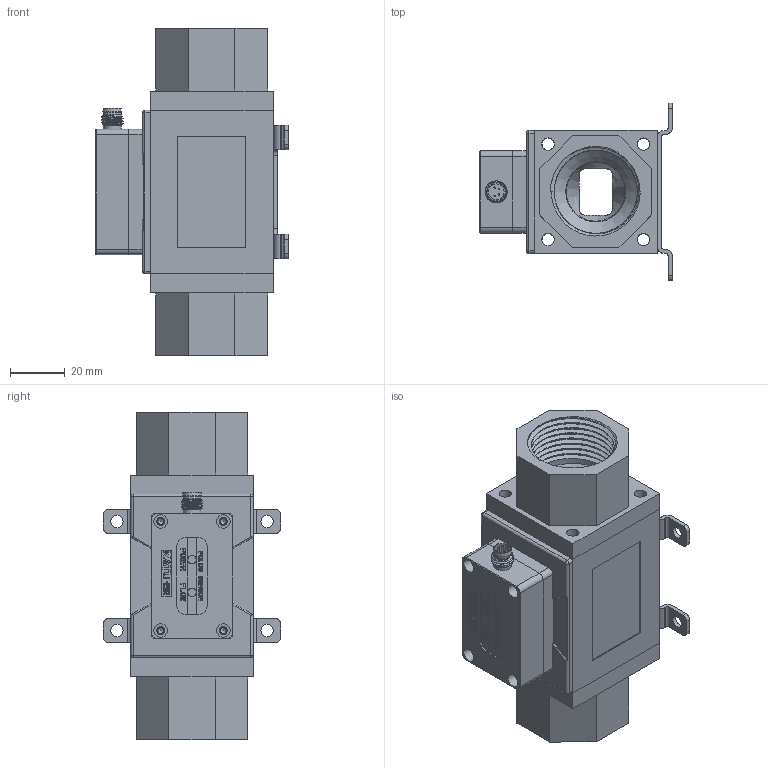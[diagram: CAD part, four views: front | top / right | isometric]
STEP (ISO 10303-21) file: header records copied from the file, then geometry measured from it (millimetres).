
FILE_DESCRIPTION( (''), '2;1');
FILE_NAME( 'QEKJ_100L_R1_M12_bracket.step', '2023-06-19T14:17:47+08:00', (''), (''), '', '', '');
FILE_SCHEMA (('CONFIG_CONTROL_DESIGN'));
Length unit declared in the file: millimetre
Products named in the file (1): QEKJ 100L_R1_M12_bracket
Bounding box: 70.5 x 65 x 120 mm (x, y, z)
Volume: 106792.9 mm3; surface area: 76070.7 mm2
Topology: 7 solids, 7 shells, 1195 faces, 3293 edges, 2186 vertices
Faces by surface type: plane 823, cylinder 227, extrusion 86, cone 40, bspline 8, sphere 8, torus 3
Full cylindrical faces by diameter (mm): 0.6 x4, 1.6 x2, 2 x1, 2.05 x7, 2.7 x4, 3 x9, 4 x5, 4.5 x24, 5 x4, 5.8 x1, 6 x2, 6.5 x2, 7 x5, 8 x3, 9.5 x1, 22 x2, 25 x2, 28 x4, 30.5 x16
Entity records: 41108 total; most frequent: CARTESIAN_POINT 11886, ORIENTED_EDGE 6104, DIRECTION 5511, EDGE_CURVE 3052, VECTOR 2399, LINE 2313, VERTEX_POINT 2092, AXIS2_PLACEMENT_3D 1556
